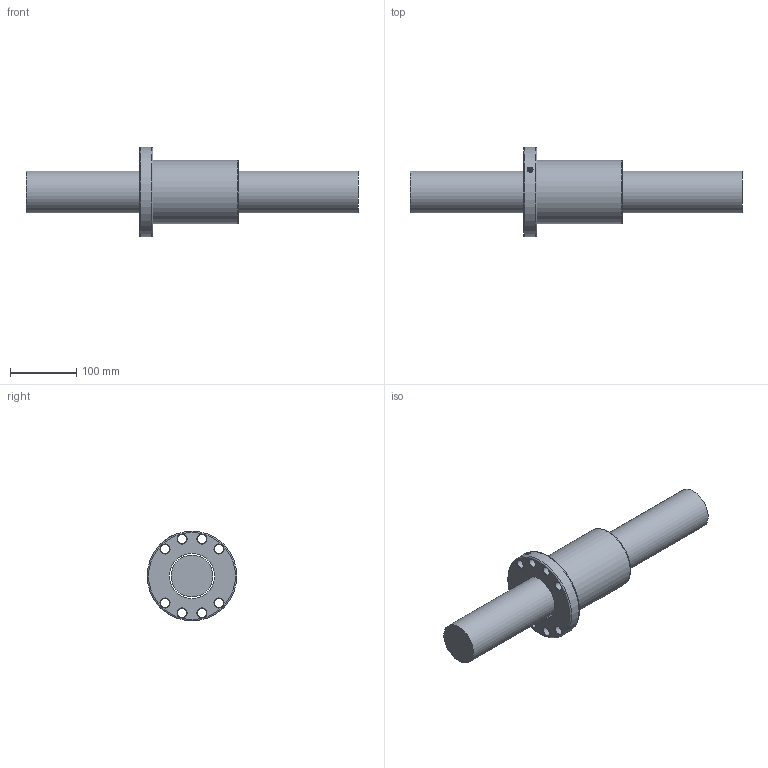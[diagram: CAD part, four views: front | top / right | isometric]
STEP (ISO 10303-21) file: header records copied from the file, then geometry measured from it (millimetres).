
FILE_DESCRIPTION (( 'STEP AP203' ), '1' );
FILE_NAME ('SFNU06320N-4.step', '2024-05-10T07:01:17', ( '' ), ( '' ), 'SwSTEP 2.0', 'SolidWorks 2022', '' );
FILE_SCHEMA (( 'CONFIG_CONTROL_DESIGN' ));
Length unit declared in the file: millimetre
Products named in the file (1): SFNU06320N-4
Bounding box: 500 x 135 x 135 mm (x, y, z)
Volume: 2191580 mm3; surface area: 209232.4 mm2
Topology: 2 solids, 2 shells, 51 faces, 127 edges, 81 vertices
Faces by surface type: cylinder 20, cone 17, plane 6, bspline 5, torus 3
Full cylindrical faces by diameter (mm): 4 x1, 7 x6, 13.5 x8, 63 x1, 68.2 x1, 95 x1, 135 x1
Entity records: 2896 total; most frequent: CARTESIAN_POINT 1975, DIRECTION 176, ORIENTED_EDGE 118, EDGE_LOOP 100, AXIS2_PLACEMENT_3D 86, FACE_OUTER_BOUND 62, EDGE_CURVE 59, VERTEX_POINT 55
